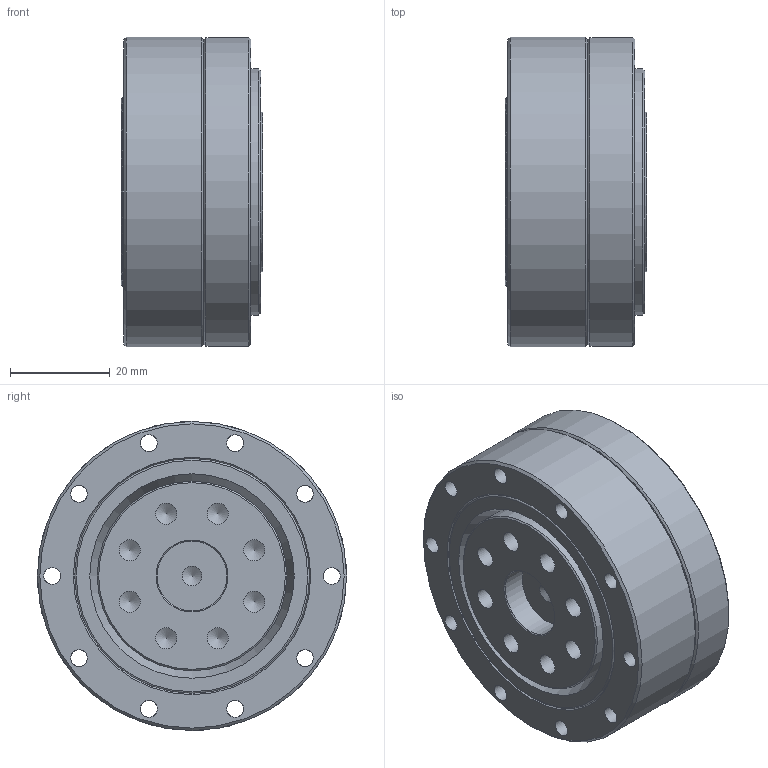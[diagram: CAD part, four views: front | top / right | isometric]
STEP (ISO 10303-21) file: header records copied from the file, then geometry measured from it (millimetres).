
FILE_DESCRIPTION (( 'STEP AP203' ), '1' );
FILE_NAME ('LCD-17-XXX-C-I-ST0.STEP', '2025-01-20T08:09:52', ( '' ), ( '' ), 'SwSTEP 2.0', 'SolidWorks 2023', '' );
FILE_SCHEMA (( 'CONFIG_CONTROL_DESIGN' ));
Length unit declared in the file: metre
Products named in the file (1): LCD-17-XXX-C-I-ST0
Bounding box: 28.4 x 62 x 62 mm (x, y, z)
Volume: 60467.5 mm3; surface area: 48511.6 mm2
Topology: 27 solids, 27 shells, 767 faces, 1785 edges, 1113 vertices
Faces by surface type: plane 381, cylinder 200, cone 122, torus 41, sphere 23
Full cylindrical faces by diameter (mm): 1.6 x9, 2 x9, 2.4 x9, 2.5 x4, 3.3 x8, 3.4 x24, 3.8 x9, 4 x8, 4.2 x8, 4.5 x8, 4.8 x5, 7 x8, 9.8 x1, 11 x2, 14 x1, 16 x2, 27 x2, 27.2 x1, 29.4 x1, 30.295 x1, 30.6 x1, 32 x2, 32.53 x2, 33.23 x1, 36 x1, 37.957 x1, 38 x2, 38.79 x1, 39.6 x1, 41 x1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
Entity records: 20397 total; most frequent: CARTESIAN_POINT 4193, DIRECTION 3566, ORIENTED_EDGE 2730, AXIS2_PLACEMENT_3D 1504, EDGE_CURVE 1365, EDGE_LOOP 1232, VERTEX_POINT 1001, FACE_OUTER_BOUND 961
